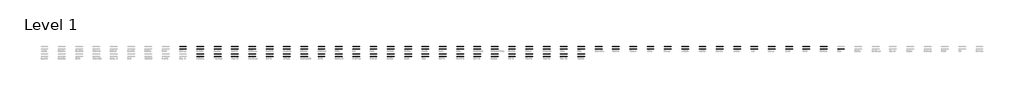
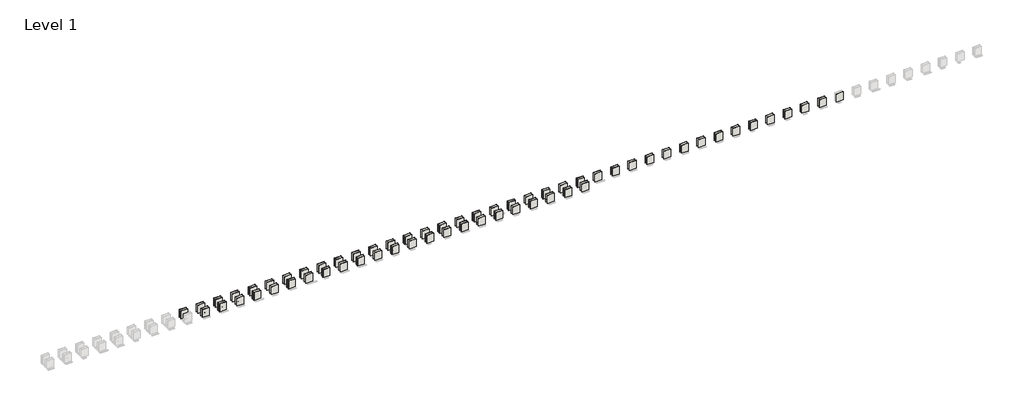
# One storey, part 3 of 99: 123 walls.
"""IFC4 building model written with IfcOpenShell, lengths in millimetres."""

import ifcopenshell
import ifcopenshell.guid

model = None  # the IFC model being written
_history = None  # IfcOwnerHistory: only IFC2X3 demands one
_inside = {}  # id of a spatial element -> (the spatial element, [elements in it])
_under = {}  # id of a project, library or spatial element -> (it, [spatial elements below it])
_declared = {}  # id of a project -> (the project, [libraries it declares])
_typed = {}  # id of a type object -> (the type object, [elements of that type])
_made_of = {}  # id of a material, layer set ... -> (it, [elements and type objects made of it])


def new_model(schema):
    """Start an empty IFC model of exactly this schema.

    Asked for "IFC4X3", IfcOpenShell would pick the latest addendum, in which some entities
    have other attributes; the version numbers below select the first issue.
    IFC2X3 requires an IfcOwnerHistory on every rooted entity: one is made here for all.
    """
    global model, _history
    if schema == "IFC4X3":
        model = ifcopenshell.file(schema_version=(4, 3, 0, 0))
    else:
        model = ifcopenshell.file(schema=schema)
    _inside.clear()
    _under.clear()
    _declared.clear()
    _typed.clear()
    _made_of.clear()
    _history = None
    if model.schema == "IFC2X3":
        org = make("IfcOrganization", Name="unknown")
        user = make(
            "IfcPersonAndOrganization",
            ThePerson=make("IfcPerson", FamilyName="unknown"),
            TheOrganization=org,
        )
        app = make(
            "IfcApplication",
            ApplicationDeveloper=org,
            Version="unknown",
            ApplicationFullName="unknown",
            ApplicationIdentifier="unknown",
        )
        _history = make(
            "IfcOwnerHistory",
            OwningUser=user,
            OwningApplication=app,
            ChangeAction="ADDED",
            CreationDate=0,
        )
    return model


def make(cls, **values):
    """One entity of the class cls with the attributes given. An attribute that is None is left unset."""
    return model.create_entity(
        cls, **{name: value for name, value in values.items() if value is not None}
    )


def rooted(cls, **values):
    """An entity with a GlobalId (a new one), such as an element, a storey or a relation."""
    return make(cls, GlobalId=ifcopenshell.guid.new(), OwnerHistory=_history, **values)


def si_unit(unit_type, name, prefix=None):
    """IfcSIUnit, for example si_unit("LENGTHUNIT", "METRE", prefix="MILLI")."""
    return make("IfcSIUnit", UnitType=unit_type, Prefix=prefix, Name=name)


def assignment(units):
    """IfcUnitAssignment: the units of a project."""
    return None if units is None else make("IfcUnitAssignment", Units=units)


def point(xyz):
    """IfcCartesianPoint."""
    return None if xyz is None else make("IfcCartesianPoint", Coordinates=xyz)


def direction(xyz):
    """IfcDirection."""
    return None if xyz is None else make("IfcDirection", DirectionRatios=xyz)


def frame(location, z_axis=None, x_axis=None):
    """IfcAxis2Placement3D, a coordinate frame: its origin and axes. An axis left out is left unset."""
    return make(
        "IfcAxis2Placement3D",
        Location=point(location),
        Axis=direction(z_axis),
        RefDirection=direction(x_axis),
    )


def origin():
    """The frame at (0, 0, 0) with its axes left unset."""
    return frame((0.0, 0.0, 0.0))


def origin_with_axes():
    """The frame at (0, 0, 0) with the z axis (0, 0, 1) and the x axis (1, 0, 0) written out."""
    return frame((0.0, 0.0, 0.0), z_axis=(0.0, 0.0, 1.0), x_axis=(1.0, 0.0, 0.0))


def place(relative_to, where):
    """IfcLocalPlacement: puts the frame where relative to a parent placement (None: the world)."""
    return make(
        "IfcLocalPlacement", PlacementRelTo=relative_to, RelativePlacement=where
    )


def context(
    kind, dimensions, precision=None, world=None, true_north=None, identifier=None
):
    """IfcGeometricRepresentationContext, for example the 3D "Model" context."""
    return make(
        "IfcGeometricRepresentationContext",
        ContextIdentifier=identifier,
        ContextType=kind,
        CoordinateSpaceDimension=dimensions,
        Precision=precision,
        WorldCoordinateSystem=world,
        TrueNorth=true_north,
    )


def project(units=None, contexts=None):
    """IfcProject with its units and contexts."""
    return rooted(
        "IfcProject",
        Name="project",
        RepresentationContexts=contexts,
        UnitsInContext=assignment(units),
    )


def spatial(cls, under=None, at=None, **own):
    """A site, building, storey or space (cls), placed at a placement, below another one or the project."""
    s = rooted(cls, ObjectPlacement=at, **own)
    if under is not None:
        _under.setdefault(under.id(), (under, []))[1].append(s)
    return s


def polyline(points):
    """IfcPolyline through the points."""
    return make("IfcPolyline", Points=[point(p) for p in points])


def outline(outer, holes=None, kind="AREA"):
    """IfcArbitraryClosedProfileDef: a profile drawn as a closed curve; with holes, ...WithVoids."""
    if holes is None:
        return make("IfcArbitraryClosedProfileDef", ProfileType=kind, OuterCurve=outer)
    return make(
        "IfcArbitraryProfileDefWithVoids",
        ProfileType=kind,
        OuterCurve=outer,
        InnerCurves=holes,
    )


def extrude(swept, where, along, depth):
    """IfcExtrudedAreaSolid: the profile swept, set in the frame where, extruded along a direction by depth."""
    return make(
        "IfcExtrudedAreaSolid",
        SweptArea=swept,
        Position=where,
        ExtrudedDirection=direction(along),
        Depth=depth,
    )


def shape(context_of_items, identifier, shape_type, items):
    """IfcShapeRepresentation: the items that make up one representation, for example the "Body"."""
    return make(
        "IfcShapeRepresentation",
        ContextOfItems=context_of_items,
        RepresentationIdentifier=identifier,
        RepresentationType=shape_type,
        Items=items,
    )


def made_of(thing, what):
    """Note that an element or type object is made of a material, layer set ...; save() writes the relation."""
    if what is not None:
        _made_of.setdefault(what.id(), (what, []))[1].append(thing)
    return thing


def element(
    cls,
    number,
    at=None,
    inside=None,
    cuts=None,
    type_object=None,
    material=None,
    context=None,
    identifier="Body",
    shape_type=None,
    held_by="IfcProductDefinitionShape",
    body=None,
    shapes=None,
    **own,
):
    """One element of the class cls, such as IfcWall. Its Tag is "e" and its number.

    at: its placement. inside: the storey or other place that contains it. cuts: it is an
    opening in that element (IfcRelVoidsElement). A single representation is given by context,
    identifier, shape_type and body (its items); several are given by shapes. held_by: the class
    of the entity that holds the representations. save() writes the other relations.
    """
    e = rooted(cls, Tag="e%d" % number, ObjectPlacement=at, **own)
    if body is not None:
        shapes = [shape(context, identifier, shape_type, body)]
    if shapes is not None:
        e.Representation = make(held_by, Representations=shapes)
    if inside is not None:
        _inside.setdefault(inside.id(), (inside, []))[1].append(e)
    if cuts is not None:
        rooted(
            "IfcRelVoidsElement", RelatingBuildingElement=cuts, RelatedOpeningElement=e
        )
    if type_object is not None:
        _typed.setdefault(type_object.id(), (type_object, []))[1].append(e)
    return made_of(e, material)


def aggregate(whole, parts):
    """IfcRelAggregates: a whole, such as a stair, and the parts it consists of."""
    return rooted("IfcRelAggregates", RelatingObject=whole, RelatedObjects=parts)


def save(model, path):
    """Write the relations noted so far, then the file.

    IfcRelAggregates (storeys below a building ...), IfcRelContainedInSpatialStructure (elements
    in a storey), IfcRelDefinesByType, IfcRelAssociatesMaterial and IfcRelDeclares: one each for
    every whole, place, type object, material and project.
    """
    for whole, parts in _under.values():
        aggregate(whole, parts)
    for where, things in _inside.values():
        rooted(
            "IfcRelContainedInSpatialStructure",
            RelatedElements=things,
            RelatingStructure=where,
        )
    for kind, things in _typed.values():
        rooted("IfcRelDefinesByType", RelatedObjects=things, RelatingType=kind)
    for what, things in _made_of.values():
        rooted("IfcRelAssociatesMaterial", RelatedObjects=things, RelatingMaterial=what)
    for by, libraries in _declared.values():
        rooted("IfcRelDeclares", RelatingContext=by, RelatedDefinitions=libraries)
    model.write(path)


model = new_model("IFC4")

# Units and contexts
model_context = context("Model", 3, world=origin())
ifc_project = project(units=[si_unit("LENGTHUNIT", "METRE", prefix="MILLI")], contexts=[model_context])

# Site, building, storey
site = spatial("IfcSite", under=ifc_project)
building = spatial("IfcBuilding", under=site)
storey = spatial("IfcBuildingStorey", under=building, Name="Level 1", Elevation=0.0)

# Walls
placement = place(None, origin())
element("IfcWall", 1, ObjectType="RSen_22_WA_partition wall - metal stud - Clicwall FR BST Oak Rustique 2785x600x10 mm_Unilin", at=placement, inside=storey, context=model_context, shape_type="SweptSolid", body=[
    extrude(outline(polyline([(215188.8, 1179.2), (211836.0, 1179.2), (211836.0, 1259.2), (215188.8, 1259.2), (215188.8, 1179.2)])), origin_with_axes(), (0.0, 0.0, 1.0), 4000.0),
])
element("IfcWall", 2, ObjectType="RSen_22_WA_partition wall - metal stud - chipboard - Clicwall FR BST Oak Rustique 2785x600x10 mm_Unilin", at=placement, inside=storey, context=model_context, shape_type="SweptSolid", body=[
    extrude(outline(polyline([(215188.8, 2392.4), (211836.0, 2392.4), (211836.0, 2484.4), (215188.8, 2484.4), (215188.8, 2392.4)])), origin_with_axes(), (0.0, 0.0, 1.0), 4000.0),
])
element("IfcWall", 3, ObjectType="RSen_22_WA_partition wall - metal stud - Clicwall FR BST Odessa Beech 2785x600x10 mm_Unilin", at=placement, inside=storey, context=model_context, shape_type="SweptSolid", body=[
    extrude(outline(polyline([(223570.8, 1179.2), (220218.0, 1179.2), (220218.0, 1259.2), (223570.8, 1259.2), (223570.8, 1179.2)])), origin_with_axes(), (0.0, 0.0, 1.0), 4000.0),
])
element("IfcWall", 4, ObjectType="RSen_22_WA_partition wall - metal stud - chipboard - Clicwall FR BST Odessa Beech 2785x600x10 mm_Unilin", at=placement, inside=storey, context=model_context, shape_type="SweptSolid", body=[
    extrude(outline(polyline([(223570.8, 2392.4), (220218.0, 2392.4), (220218.0, 2484.4), (223570.8, 2484.4), (223570.8, 2392.4)])), origin_with_axes(), (0.0, 0.0, 1.0), 4000.0),
])
element("IfcWall", 5, ObjectType="RSen_22_WA_partition wall - metal stud - Clicwall FR BST Paruma Oak 2785x600x10 mm_Unilin", at=placement, inside=storey, context=model_context, shape_type="SweptSolid", body=[
    extrude(outline(polyline([(231952.8, 1179.2), (228600.0, 1179.2), (228600.0, 1259.2), (231952.8, 1259.2), (231952.8, 1179.2)])), origin_with_axes(), (0.0, 0.0, 1.0), 4000.0),
])
element("IfcWall", 6, ObjectType="RSen_22_WA_partition wall - metal stud - chipboard - Clicwall FR BST Paruma Oak 2785x600x10 mm_Unilin", at=placement, inside=storey, context=model_context, shape_type="SweptSolid", body=[
    extrude(outline(polyline([(231952.8, 2392.4), (228600.0, 2392.4), (228600.0, 2484.4), (231952.8, 2484.4), (231952.8, 2392.4)])), origin_with_axes(), (0.0, 0.0, 1.0), 4000.0),
])
element("IfcWall", 7, ObjectType="RSen_22_WA_partition wall - metal stud - Clicwall FR BST Peacock's green 2785x600x10 mm_Unilin", at=placement, inside=storey, context=model_context, shape_type="SweptSolid", body=[
    extrude(outline(polyline([(240334.8, 1179.2), (236982.0, 1179.2), (236982.0, 1259.2), (240334.8, 1259.2), (240334.8, 1179.2)])), origin_with_axes(), (0.0, 0.0, 1.0), 4000.0),
])
element("IfcWall", 8, ObjectType="RSen_22_WA_partition wall - metal stud - chipboard - Clicwall FR BST Peacock's green 2785x600x10 mm_Unilin", at=placement, inside=storey, context=model_context, shape_type="SweptSolid", body=[
    extrude(outline(polyline([(240334.8, 2392.4), (236982.0, 2392.4), (236982.0, 2484.4), (240334.8, 2484.4), (240334.8, 2392.4)])), origin_with_axes(), (0.0, 0.0, 1.0), 4000.0),
])
element("IfcWall", 9, ObjectType="RSen_22_WA_partition wall - metal stud - Clicwall FR BST Pearl Oak 2785x600x10 mm_Unilin", at=placement, inside=storey, context=model_context, shape_type="SweptSolid", body=[
    extrude(outline(polyline([(248716.8, 1179.2), (245364.0, 1179.2), (245364.0, 1259.2), (248716.8, 1259.2), (248716.8, 1179.2)])), origin_with_axes(), (0.0, 0.0, 1.0), 4000.0),
])
element("IfcWall", 10, ObjectType="RSen_22_WA_partition wall - metal stud - chipboard - Clicwall FR BST Pearl Oak 2785x600x10 mm_Unilin", at=placement, inside=storey, context=model_context, shape_type="SweptSolid", body=[
    extrude(outline(polyline([(248716.8, 2392.4), (245364.0, 2392.4), (245364.0, 2484.4), (248716.8, 2484.4), (248716.8, 2392.4)])), origin_with_axes(), (0.0, 0.0, 1.0), 4000.0),
])
element("IfcWall", 11, ObjectType="RSen_22_WA_partition wall - metal stud - Clicwall FR BST Pebble white 2785x600x10 mm_Unilin", at=placement, inside=storey, context=model_context, shape_type="SweptSolid", body=[
    extrude(outline(polyline([(257098.8, 1179.2), (253746.0, 1179.2), (253746.0, 1259.2), (257098.8, 1259.2), (257098.8, 1179.2)])), origin_with_axes(), (0.0, 0.0, 1.0), 4000.0),
])
element("IfcWall", 12, ObjectType="RSen_22_WA_partition wall - metal stud - chipboard - Clicwall FR BST Pebble white 2785x600x10 mm_Unilin", at=placement, inside=storey, context=model_context, shape_type="SweptSolid", body=[
    extrude(outline(polyline([(257098.8, 2392.4), (253746.0, 2392.4), (253746.0, 2484.4), (257098.8, 2484.4), (257098.8, 2392.4)])), origin_with_axes(), (0.0, 0.0, 1.0), 4000.0),
])
element("IfcWall", 13, ObjectType="RSen_22_WA_partition wall - metal stud - Clicwall FR BST Pure Concrete light 2785x600x10 mm_Unilin", at=placement, inside=storey, context=model_context, shape_type="SweptSolid", body=[
    extrude(outline(polyline([(265480.8, 1179.2), (262128.0, 1179.2), (262128.0, 1259.2), (265480.8, 1259.2), (265480.8, 1179.2)])), origin_with_axes(), (0.0, 0.0, 1.0), 4000.0),
])
element("IfcWall", 14, ObjectType="RSen_22_WA_partition wall - metal stud - chipboard - Clicwall FR BST Pure Concrete light 2785x600x10 mm_Unilin", at=placement, inside=storey, context=model_context, shape_type="SweptSolid", body=[
    extrude(outline(polyline([(265480.8, 2392.4), (262128.0, 2392.4), (262128.0, 2484.4), (265480.8, 2484.4), (265480.8, 2392.4)])), origin_with_axes(), (0.0, 0.0, 1.0), 4000.0),
])
element("IfcWall", 15, ObjectType="RSen_22_WA_partition wall - metal stud - Clicwall FR BST Rila Oak 2785x600x10 mm_Unilin", at=placement, inside=storey, context=model_context, shape_type="SweptSolid", body=[
    extrude(outline(polyline([(273862.8, 1179.2), (270510.0, 1179.2), (270510.0, 1259.2), (273862.8, 1259.2), (273862.8, 1179.2)])), origin_with_axes(), (0.0, 0.0, 1.0), 4000.0),
])
element("IfcWall", 16, ObjectType="RSen_22_WA_partition wall - metal stud - chipboard - Clicwall FR BST Rila Oak 2785x600x10 mm_Unilin", at=placement, inside=storey, context=model_context, shape_type="SweptSolid", body=[
    extrude(outline(polyline([(273862.8, 2392.4), (270510.0, 2392.4), (270510.0, 2484.4), (273862.8, 2484.4), (273862.8, 2392.4)])), origin_with_axes(), (0.0, 0.0, 1.0), 4000.0),
])
element("IfcWall", 17, ObjectType="RSen_22_WA_partition wall - metal stud - Clicwall FR BST Riverside  Oak 2785x600x10 mm_Unilin", at=placement, inside=storey, context=model_context, shape_type="SweptSolid", body=[
    extrude(outline(polyline([(282244.8, 1179.2), (278892.0, 1179.2), (278892.0, 1259.2), (282244.8, 1259.2), (282244.8, 1179.2)])), origin_with_axes(), (0.0, 0.0, 1.0), 4000.0),
])
element("IfcWall", 18, ObjectType="RSen_22_WA_partition wall - metal stud - chipboard - Clicwall FR BST Riverside  Oak 2785x600x10 mm_Unilin", at=placement, inside=storey, context=model_context, shape_type="SweptSolid", body=[
    extrude(outline(polyline([(282244.8, 2392.4), (278892.0, 2392.4), (278892.0, 2484.4), (282244.8, 2484.4), (282244.8, 2392.4)])), origin_with_axes(), (0.0, 0.0, 1.0), 4000.0),
])
element("IfcWall", 19, ObjectType="RSen_22_WA_partition wall - metal stud - Clicwall FR BST Roasted brown 2785x600x10 mm_Unilin", at=placement, inside=storey, context=model_context, shape_type="SweptSolid", body=[
    extrude(outline(polyline([(290626.8, 1179.2), (287274.0, 1179.2), (287274.0, 1259.2), (290626.8, 1259.2), (290626.8, 1179.2)])), origin_with_axes(), (0.0, 0.0, 1.0), 4000.0),
])
element("IfcWall", 20, ObjectType="RSen_22_WA_partition wall - metal stud - chipboard - Clicwall FR BST Roasted brown 2785x600x10 mm_Unilin", at=placement, inside=storey, context=model_context, shape_type="SweptSolid", body=[
    extrude(outline(polyline([(290626.8, 2392.4), (287274.0, 2392.4), (287274.0, 2484.4), (290626.8, 2484.4), (290626.8, 2392.4)])), origin_with_axes(), (0.0, 0.0, 1.0), 4000.0),
])
element("IfcWall", 21, ObjectType="RSen_22_WA_partition wall - metal stud - Clicwall FR BST Robson Oak 2785x600x10 mm_Unilin", at=placement, inside=storey, context=model_context, shape_type="SweptSolid", body=[
    extrude(outline(polyline([(299008.8, 1179.2), (295656.0, 1179.2), (295656.0, 1259.2), (299008.8, 1259.2), (299008.8, 1179.2)])), origin_with_axes(), (0.0, 0.0, 1.0), 4000.0),
])
element("IfcWall", 22, ObjectType="RSen_22_WA_partition wall - metal stud - chipboard - Clicwall FR BST Robson Oak 2785x600x10 mm_Unilin", at=placement, inside=storey, context=model_context, shape_type="SweptSolid", body=[
    extrude(outline(polyline([(299008.8, 2392.4), (295656.0, 2392.4), (295656.0, 2484.4), (299008.8, 2484.4), (299008.8, 2392.4)])), origin_with_axes(), (0.0, 0.0, 1.0), 4000.0),
])
element("IfcWall", 23, ObjectType="RSen_22_WA_partition wall - metal stud - Clicwall FR BST Sandy lilac 2785x600x10 mm_Unilin", at=placement, inside=storey, context=model_context, shape_type="SweptSolid", body=[
    extrude(outline(polyline([(307390.8, 1179.2), (304038.0, 1179.2), (304038.0, 1259.2), (307390.8, 1259.2), (307390.8, 1179.2)])), origin_with_axes(), (0.0, 0.0, 1.0), 4000.0),
])
element("IfcWall", 24, ObjectType="RSen_22_WA_partition wall - metal stud - chipboard - Clicwall FR BST Sandy lilac 2785x600x10 mm_Unilin", at=placement, inside=storey, context=model_context, shape_type="SweptSolid", body=[
    extrude(outline(polyline([(307390.8, 2392.4), (304038.0, 2392.4), (304038.0, 2484.4), (307390.8, 2484.4), (307390.8, 2392.4)])), origin_with_axes(), (0.0, 0.0, 1.0), 4000.0),
])
element("IfcWall", 25, ObjectType="RSen_22_WA_partition wall - metal stud - Clicwall FR BST Seashell 2785x600x10 mm_Unilin", at=placement, inside=storey, context=model_context, shape_type="SweptSolid", body=[
    extrude(outline(polyline([(315772.8, 1179.2), (312420.0, 1179.2), (312420.0, 1259.2), (315772.8, 1259.2), (315772.8, 1179.2)])), origin_with_axes(), (0.0, 0.0, 1.0), 4000.0),
])
element("IfcWall", 26, ObjectType="RSen_22_WA_partition wall - metal stud - chipboard - Clicwall FR BST Seashell 2785x600x10 mm_Unilin", at=placement, inside=storey, context=model_context, shape_type="SweptSolid", body=[
    extrude(outline(polyline([(315772.8, 2392.4), (312420.0, 2392.4), (312420.0, 2484.4), (315772.8, 2484.4), (315772.8, 2392.4)])), origin_with_axes(), (0.0, 0.0, 1.0), 4000.0),
])
element("IfcWall", 27, ObjectType="RSen_22_WA_partition wall - metal stud - Clicwall FR BST Silicon  2785x600x10 mm_Unilin", at=placement, inside=storey, context=model_context, shape_type="SweptSolid", body=[
    extrude(outline(polyline([(324154.8, 1179.2), (320802.0, 1179.2), (320802.0, 1259.2), (324154.8, 1259.2), (324154.8, 1179.2)])), origin_with_axes(), (0.0, 0.0, 1.0), 4000.0),
])
element("IfcWall", 28, ObjectType="RSen_22_WA_partition wall - metal stud - chipboard - Clicwall FR BST Silicon  2785x600x10 mm_Unilin", at=placement, inside=storey, context=model_context, shape_type="SweptSolid", body=[
    extrude(outline(polyline([(324154.8, 2392.4), (320802.0, 2392.4), (320802.0, 2484.4), (324154.8, 2484.4), (324154.8, 2392.4)])), origin_with_axes(), (0.0, 0.0, 1.0), 4000.0),
])
element("IfcWall", 29, ObjectType="RSen_22_WA_partition wall - metal stud - Clicwall FR BST Sinai Oak  2785x600x10 mm_Unilin", at=placement, inside=storey, context=model_context, shape_type="SweptSolid", body=[
    extrude(outline(polyline([(332536.8, 1179.2), (329184.0, 1179.2), (329184.0, 1259.2), (332536.8, 1259.2), (332536.8, 1179.2)])), origin_with_axes(), (0.0, 0.0, 1.0), 4000.0),
])
element("IfcWall", 30, ObjectType="RSen_22_WA_partition wall - metal stud - chipboard - Clicwall FR BST Sinai Oak  2785x600x10 mm_Unilin", at=placement, inside=storey, context=model_context, shape_type="SweptSolid", body=[
    extrude(outline(polyline([(332536.8, 2392.4), (329184.0, 2392.4), (329184.0, 2484.4), (332536.8, 2484.4), (332536.8, 2392.4)])), origin_with_axes(), (0.0, 0.0, 1.0), 4000.0),
])
element("IfcWall", 31, ObjectType="RSen_22_WA_partition wall - metal stud - Clicwall FR BST Snowdon Oak 2785x600x10 mm_Unilin", at=placement, inside=storey, context=model_context, shape_type="SweptSolid", body=[
    extrude(outline(polyline([(340918.8, 1179.2), (337566.0, 1179.2), (337566.0, 1259.2), (340918.8, 1259.2), (340918.8, 1179.2)])), origin_with_axes(), (0.0, 0.0, 1.0), 4000.0),
])
element("IfcWall", 32, ObjectType="RSen_22_WA_partition wall - metal stud - chipboard - Clicwall FR BST Snowdon Oak 2785x600x10 mm_Unilin", at=placement, inside=storey, context=model_context, shape_type="SweptSolid", body=[
    extrude(outline(polyline([(340918.8, 2392.4), (337566.0, 2392.4), (337566.0, 2484.4), (340918.8, 2484.4), (340918.8, 2392.4)])), origin_with_axes(), (0.0, 0.0, 1.0), 4000.0),
])
element("IfcWall", 33, ObjectType="RSen_22_WA_partition wall - metal stud - Clicwall FR BST Solara Oak 2785x600x10 mm_Unilin", at=placement, inside=storey, context=model_context, shape_type="SweptSolid", body=[
    extrude(outline(polyline([(349300.8, 1179.2), (345948.0, 1179.2), (345948.0, 1259.2), (349300.8, 1259.2), (349300.8, 1179.2)])), origin_with_axes(), (0.0, 0.0, 1.0), 4000.0),
])
element("IfcWall", 34, ObjectType="RSen_22_WA_partition wall - metal stud - chipboard - Clicwall FR BST Solara Oak 2785x600x10 mm_Unilin", at=placement, inside=storey, context=model_context, shape_type="SweptSolid", body=[
    extrude(outline(polyline([(349300.8, 2392.4), (345948.0, 2392.4), (345948.0, 2484.4), (349300.8, 2484.4), (349300.8, 2392.4)])), origin_with_axes(), (0.0, 0.0, 1.0), 4000.0),
])
element("IfcWall", 35, ObjectType="RSen_22_WA_partition wall - metal stud - Clicwall FR BST Suomi Ash 2785x600x10 mm_Unilin", at=placement, inside=storey, context=model_context, shape_type="SweptSolid", body=[
    extrude(outline(polyline([(357682.8, 1179.2), (354330.0, 1179.2), (354330.0, 1259.2), (357682.8, 1259.2), (357682.8, 1179.2)])), origin_with_axes(), (0.0, 0.0, 1.0), 4000.0),
])
element("IfcWall", 36, ObjectType="RSen_22_WA_partition wall - metal stud - chipboard - Clicwall FR BST Suomi Ash 2785x600x10 mm_Unilin", at=placement, inside=storey, context=model_context, shape_type="SweptSolid", body=[
    extrude(outline(polyline([(357682.8, 2392.4), (354330.0, 2392.4), (354330.0, 2484.4), (357682.8, 2484.4), (357682.8, 2392.4)])), origin_with_axes(), (0.0, 0.0, 1.0), 4000.0),
])
element("IfcWall", 37, ObjectType="RSen_22_WA_partition wall - metal stud - Clicwall FR BST Todi Oak  2785x600x10 mm_Unilin", at=placement, inside=storey, context=model_context, shape_type="SweptSolid", body=[
    extrude(outline(polyline([(366064.8, 1179.2), (362712.0, 1179.2), (362712.0, 1259.2), (366064.8, 1259.2), (366064.8, 1179.2)])), origin_with_axes(), (0.0, 0.0, 1.0), 4000.0),
])
element("IfcWall", 38, ObjectType="RSen_22_WA_partition wall - metal stud - chipboard - Clicwall FR BST Todi Oak  2785x600x10 mm_Unilin", at=placement, inside=storey, context=model_context, shape_type="SweptSolid", body=[
    extrude(outline(polyline([(366064.8, 2392.4), (362712.0, 2392.4), (362712.0, 2484.4), (366064.8, 2484.4), (366064.8, 2392.4)])), origin_with_axes(), (0.0, 0.0, 1.0), 4000.0),
])
element("IfcWall", 39, ObjectType="RSen_22_WA_partition wall - metal stud - Clicwall FR BST Torino Oak 2785x600x10 mm_Unilin", at=placement, inside=storey, context=model_context, shape_type="SweptSolid", body=[
    extrude(outline(polyline([(374446.8, 1179.2), (371094.0, 1179.2), (371094.0, 1259.2), (374446.8, 1259.2), (374446.8, 1179.2)])), origin_with_axes(), (0.0, 0.0, 1.0), 4000.0),
])
element("IfcWall", 40, ObjectType="RSen_22_WA_partition wall - metal stud - chipboard - Clicwall FR BST Torino Oak 2785x600x10 mm_Unilin", at=placement, inside=storey, context=model_context, shape_type="SweptSolid", body=[
    extrude(outline(polyline([(374446.8, 2392.4), (371094.0, 2392.4), (371094.0, 2484.4), (374446.8, 2484.4), (374446.8, 2392.4)])), origin_with_axes(), (0.0, 0.0, 1.0), 4000.0),
])
element("IfcWall", 41, ObjectType="RSen_22_WA_partition wall - metal stud - Clicwall FR BST Venamo Oak  2785x600x10 mm_Unilin", at=placement, inside=storey, context=model_context, shape_type="SweptSolid", body=[
    extrude(outline(polyline([(382828.8, 1179.2), (379476.0, 1179.2), (379476.0, 1259.2), (382828.8, 1259.2), (382828.8, 1179.2)])), origin_with_axes(), (0.0, 0.0, 1.0), 4000.0),
])
element("IfcWall", 42, ObjectType="RSen_22_WA_partition wall - metal stud - chipboard - Clicwall FR BST Venamo Oak  2785x600x10 mm_Unilin", at=placement, inside=storey, context=model_context, shape_type="SweptSolid", body=[
    extrude(outline(polyline([(382828.8, 2392.4), (379476.0, 2392.4), (379476.0, 2484.4), (382828.8, 2484.4), (382828.8, 2392.4)])), origin_with_axes(), (0.0, 0.0, 1.0), 4000.0),
])
element("IfcWall", 43, ObjectType="RSen_22_WA_partition wall - metal stud - Clicwall FR BST Verona Oak 2785x600x10 mm_Unilin", at=placement, inside=storey, context=model_context, shape_type="SweptSolid", body=[
    extrude(outline(polyline([(391210.8, 1179.2), (387858.0, 1179.2), (387858.0, 1259.2), (391210.8, 1259.2), (391210.8, 1179.2)])), origin_with_axes(), (0.0, 0.0, 1.0), 4000.0),
])
element("IfcWall", 44, ObjectType="RSen_22_WA_partition wall - metal stud - chipboard - Clicwall FR BST Verona Oak 2785x600x10 mm_Unilin", at=placement, inside=storey, context=model_context, shape_type="SweptSolid", body=[
    extrude(outline(polyline([(391210.8, 2392.4), (387858.0, 2392.4), (387858.0, 2484.4), (391210.8, 2484.4), (391210.8, 2392.4)])), origin_with_axes(), (0.0, 0.0, 1.0), 4000.0),
])
element("IfcWall", 45, ObjectType="RSen_22_WA_partition wall - metal stud - Clicwall FR BST White Birch 2785x600x10 mm_Unilin", at=placement, inside=storey, context=model_context, shape_type="SweptSolid", body=[
    extrude(outline(polyline([(399592.8, 1179.2), (396240.0, 1179.2), (396240.0, 1259.2), (399592.8, 1259.2), (399592.8, 1179.2)])), origin_with_axes(), (0.0, 0.0, 1.0), 4000.0),
])
element("IfcWall", 46, ObjectType="RSen_22_WA_partition wall - metal stud - chipboard - Clicwall FR BST White Birch 2785x600x10 mm_Unilin", at=placement, inside=storey, context=model_context, shape_type="SweptSolid", body=[
    extrude(outline(polyline([(399592.8, 2392.4), (396240.0, 2392.4), (396240.0, 2484.4), (399592.8, 2484.4), (399592.8, 2392.4)])), origin_with_axes(), (0.0, 0.0, 1.0), 4000.0),
])
element("IfcWall", 47, ObjectType="RSen_22_WA_partition wall - metal stud - Clicwall FR CST Fresh green 2785x600x10 mm_Unilin", at=placement, inside=storey, context=model_context, shape_type="SweptSolid", body=[
    extrude(outline(polyline([(206806.8, 4836.8), (203454.0, 4836.8), (203454.0, 4916.8), (206806.8, 4916.8), (206806.8, 4836.8)])), origin_with_axes(), (0.0, 0.0, 1.0), 4000.0),
])
element("IfcWall", 48, ObjectType="RSen_22_WA_partition wall - metal stud - chipboard - Clicwall FR CST Fresh green 2785x600x10 mm_Unilin", at=placement, inside=storey, context=model_context, shape_type="SweptSolid", body=[
    extrude(outline(polyline([(206806.8, 6050.0), (203454.0, 6050.0), (203454.0, 6142.0), (206806.8, 6142.0), (206806.8, 6050.0)])), origin_with_axes(), (0.0, 0.0, 1.0), 4000.0),
])
element("IfcWall", 49, ObjectType="RSen_22_WA_partition wall - metal stud - Clicwall FR CST Front white 2785x600x10 mm_unilin", at=placement, inside=storey, context=model_context, shape_type="SweptSolid", body=[
    extrude(outline(polyline([(215188.8, 4836.8), (211836.0, 4836.8), (211836.0, 4916.8), (215188.8, 4916.8), (215188.8, 4836.8)])), origin_with_axes(), (0.0, 0.0, 1.0), 4000.0),
])
element("IfcWall", 50, ObjectType="RSen_22_WA_partition wall - metal stud - chipboard - Clicwall FR CST Front white 2785x600x10 mm_unilin", at=placement, inside=storey, context=model_context, shape_type="SweptSolid", body=[
    extrude(outline(polyline([(215188.8, 6050.0), (211836.0, 6050.0), (211836.0, 6142.0), (215188.8, 6142.0), (215188.8, 6050.0)])), origin_with_axes(), (0.0, 0.0, 1.0), 4000.0),
])
element("IfcWall", 51, ObjectType="RSen_22_WA_partition wall - metal stud - Clicwall FR CST Frozen blue 2785x600x10 mm_Unilin", at=placement, inside=storey, context=model_context, shape_type="SweptSolid", body=[
    extrude(outline(polyline([(223570.8, 4836.8), (220218.0, 4836.8), (220218.0, 4916.8), (223570.8, 4916.8), (223570.8, 4836.8)])), origin_with_axes(), (0.0, 0.0, 1.0), 4000.0),
])
element("IfcWall", 52, ObjectType="RSen_22_WA_partition wall - metal stud - chipboard - Clicwall FR CST Frozen blue 2785x600x10 mm_Unilin", at=placement, inside=storey, context=model_context, shape_type="SweptSolid", body=[
    extrude(outline(polyline([(223570.8, 6050.0), (220218.0, 6050.0), (220218.0, 6142.0), (223570.8, 6142.0), (223570.8, 6050.0)])), origin_with_axes(), (0.0, 0.0, 1.0), 4000.0),
])
element("IfcWall", 53, ObjectType="RSen_22_WA_partition wall - metal stud - Clicwall FR CST Fumed Oak 2785x600x10 mm_Unilin", at=placement, inside=storey, context=model_context, shape_type="SweptSolid", body=[
    extrude(outline(polyline([(231952.8, 4836.8), (228600.0, 4836.8), (228600.0, 4916.8), (231952.8, 4916.8), (231952.8, 4836.8)])), origin_with_axes(), (0.0, 0.0, 1.0), 4000.0),
])
element("IfcWall", 54, ObjectType="RSen_22_WA_partition wall - metal stud - chipboard - Clicwall FR CST Fumed Oak 2785x600x10 mm_Unilin", at=placement, inside=storey, context=model_context, shape_type="SweptSolid", body=[
    extrude(outline(polyline([(231952.8, 6050.0), (228600.0, 6050.0), (228600.0, 6142.0), (231952.8, 6142.0), (231952.8, 6050.0)])), origin_with_axes(), (0.0, 0.0, 1.0), 4000.0),
])
element("IfcWall", 55, ObjectType="RSen_22_WA_partition wall - metal stud - Clicwall FR CST Goldfish orange 2785x600x10 mm_Unilin", at=placement, inside=storey, context=model_context, shape_type="SweptSolid", body=[
    extrude(outline(polyline([(240334.8, 4836.8), (236982.0, 4836.8), (236982.0, 4916.8), (240334.8, 4916.8), (240334.8, 4836.8)])), origin_with_axes(), (0.0, 0.0, 1.0), 4000.0),
])
element("IfcWall", 56, ObjectType="RSen_22_WA_partition wall - metal stud - chipboard - Clicwall FR CST Goldfish orange 2785x600x10 mm_Unilin", at=placement, inside=storey, context=model_context, shape_type="SweptSolid", body=[
    extrude(outline(polyline([(240334.8, 6050.0), (236982.0, 6050.0), (236982.0, 6142.0), (240334.8, 6142.0), (240334.8, 6050.0)])), origin_with_axes(), (0.0, 0.0, 1.0), 4000.0),
])
element("IfcWall", 57, ObjectType="RSen_22_WA_partition wall - metal stud - Clicwall FR CST Granada Oak 2785x600x10 mm_Unilin", at=placement, inside=storey, context=model_context, shape_type="SweptSolid", body=[
    extrude(outline(polyline([(248716.8, 4836.8), (245364.0, 4836.8), (245364.0, 4916.8), (248716.8, 4916.8), (248716.8, 4836.8)])), origin_with_axes(), (0.0, 0.0, 1.0), 4000.0),
])
element("IfcWall", 58, ObjectType="RSen_22_WA_partition wall - metal stud - chipboard - Clicwall FR CST Granada Oak 2785x600x10 mm_Unilin", at=placement, inside=storey, context=model_context, shape_type="SweptSolid", body=[
    extrude(outline(polyline([(248716.8, 6050.0), (245364.0, 6050.0), (245364.0, 6142.0), (248716.8, 6142.0), (248716.8, 6050.0)])), origin_with_axes(), (0.0, 0.0, 1.0), 4000.0),
])
element("IfcWall", 59, ObjectType="RSen_22_WA_partition wall - metal stud - Clicwall FR CST Green shadow 2785x600x10 mm_Unilin", at=placement, inside=storey, context=model_context, shape_type="SweptSolid", body=[
    extrude(outline(polyline([(257098.8, 4836.8), (253746.0, 4836.8), (253746.0, 4916.8), (257098.8, 4916.8), (257098.8, 4836.8)])), origin_with_axes(), (0.0, 0.0, 1.0), 4000.0),
])
element("IfcWall", 60, ObjectType="RSen_22_WA_partition wall - metal stud - chipboard - Clicwall FR CST Green shadow 2785x600x10 mm_Unilin", at=placement, inside=storey, context=model_context, shape_type="SweptSolid", body=[
    extrude(outline(polyline([(257098.8, 6050.0), (253746.0, 6050.0), (253746.0, 6142.0), (257098.8, 6142.0), (257098.8, 6050.0)])), origin_with_axes(), (0.0, 0.0, 1.0), 4000.0),
])
element("IfcWall", 61, ObjectType="RSen_22_WA_partition wall - metal stud - Clicwall FR CST Indian curry 2785x600x10 mm_Unilin", at=placement, inside=storey, context=model_context, shape_type="SweptSolid", body=[
    extrude(outline(polyline([(265480.8, 4836.8), (262128.0, 4836.8), (262128.0, 4916.8), (265480.8, 4916.8), (265480.8, 4836.8)])), origin_with_axes(), (0.0, 0.0, 1.0), 4000.0),
])
element("IfcWall", 62, ObjectType="RSen_22_WA_partition wall - metal stud - chipboard - Clicwall FR CST Indian curry 2785x600x10 mm_Unilin", at=placement, inside=storey, context=model_context, shape_type="SweptSolid", body=[
    extrude(outline(polyline([(265480.8, 6050.0), (262128.0, 6050.0), (262128.0, 6142.0), (265480.8, 6142.0), (265480.8, 6050.0)])), origin_with_axes(), (0.0, 0.0, 1.0), 4000.0),
])
element("IfcWall", 63, ObjectType="RSen_22_WA_partition wall - metal stud - Clicwall FR CST Industrial green 2785x600x10 mm_Unilin", at=placement, inside=storey, context=model_context, shape_type="SweptSolid", body=[
    extrude(outline(polyline([(273862.8, 4836.8), (270510.0, 4836.8), (270510.0, 4916.8), (273862.8, 4916.8), (273862.8, 4836.8)])), origin_with_axes(), (0.0, 0.0, 1.0), 4000.0),
])
element("IfcWall", 64, ObjectType="RSen_22_WA_partition wall - metal stud - chipboard - Clicwall FR CST Industrial green 2785x600x10 mm_Unilin", at=placement, inside=storey, context=model_context, shape_type="SweptSolid", body=[
    extrude(outline(polyline([(273862.8, 6050.0), (270510.0, 6050.0), (270510.0, 6142.0), (273862.8, 6142.0), (273862.8, 6050.0)])), origin_with_axes(), (0.0, 0.0, 1.0), 4000.0),
])
element("IfcWall", 65, ObjectType="RSen_22_WA_partition wall - metal stud - Clicwall FR CST Ink blue 2785x600x10 mm_Unilin", at=placement, inside=storey, context=model_context, shape_type="SweptSolid", body=[
    extrude(outline(polyline([(282244.8, 4836.8), (278892.0, 4836.8), (278892.0, 4916.8), (282244.8, 4916.8), (282244.8, 4836.8)])), origin_with_axes(), (0.0, 0.0, 1.0), 4000.0),
])
element("IfcWall", 66, ObjectType="RSen_22_WA_partition wall - metal stud - chipboard - Clicwall FR CST Ink blue 2785x600x10 mm_Unilin", at=placement, inside=storey, context=model_context, shape_type="SweptSolid", body=[
    extrude(outline(polyline([(282244.8, 6050.0), (278892.0, 6050.0), (278892.0, 6142.0), (282244.8, 6142.0), (282244.8, 6050.0)])), origin_with_axes(), (0.0, 0.0, 1.0), 4000.0),
])
element("IfcWall", 67, ObjectType="RSen_22_WA_partition wall - metal stud - Clicwall FR CST Ivory 2785x600x10 mm_Unilin", at=placement, inside=storey, context=model_context, shape_type="SweptSolid", body=[
    extrude(outline(polyline([(290626.8, 4836.8), (287274.0, 4836.8), (287274.0, 4916.8), (290626.8, 4916.8), (290626.8, 4836.8)])), origin_with_axes(), (0.0, 0.0, 1.0), 4000.0),
])
element("IfcWall", 68, ObjectType="RSen_22_WA_partition wall - metal stud - chipboard - Clicwall FR CST Ivory 2785x600x10 mm_Unilin", at=placement, inside=storey, context=model_context, shape_type="SweptSolid", body=[
    extrude(outline(polyline([(290626.8, 6050.0), (287274.0, 6050.0), (287274.0, 6142.0), (290626.8, 6142.0), (290626.8, 6050.0)])), origin_with_axes(), (0.0, 0.0, 1.0), 4000.0),
])
element("IfcWall", 69, ObjectType="RSen_22_WA_partition wall - metal stud - Clicwall FR CST Jasmina 2785x600x10 mm_Unilin", at=placement, inside=storey, context=model_context, shape_type="SweptSolid", body=[
    extrude(outline(polyline([(299008.8, 4836.8), (295656.0, 4836.8), (295656.0, 4916.8), (299008.8, 4916.8), (299008.8, 4836.8)])), origin_with_axes(), (0.0, 0.0, 1.0), 4000.0),
])
element("IfcWall", 70, ObjectType="RSen_22_WA_partition wall - metal stud - chipboard - Clicwall FR CST Jasmina 2785x600x10 mm_Unilin", at=placement, inside=storey, context=model_context, shape_type="SweptSolid", body=[
    extrude(outline(polyline([(299008.8, 6050.0), (295656.0, 6050.0), (295656.0, 6142.0), (299008.8, 6142.0), (299008.8, 6050.0)])), origin_with_axes(), (0.0, 0.0, 1.0), 4000.0),
])
element("IfcWall", 71, ObjectType="RSen_22_WA_partition wall - metal stud - Clicwall FR CST Jura Beech 2785x600x10 mm_Unilin", at=placement, inside=storey, context=model_context, shape_type="SweptSolid", body=[
    extrude(outline(polyline([(307390.8, 4836.8), (304038.0, 4836.8), (304038.0, 4916.8), (307390.8, 4916.8), (307390.8, 4836.8)])), origin_with_axes(), (0.0, 0.0, 1.0), 4000.0),
])
element("IfcWall", 72, ObjectType="RSen_22_WA_partition wall - metal stud - chipboard - Clicwall FR CST Jura Beech 2785x600x10 mm_Unilin", at=placement, inside=storey, context=model_context, shape_type="SweptSolid", body=[
    extrude(outline(polyline([(307390.8, 6050.0), (304038.0, 6050.0), (304038.0, 6142.0), (307390.8, 6142.0), (307390.8, 6050.0)])), origin_with_axes(), (0.0, 0.0, 1.0), 4000.0),
])
element("IfcWall", 73, ObjectType="RSen_22_WA_partition wall - metal stud - Clicwall FR CST Kivu Wenge 2785x600x10 mm_Unilin", at=placement, inside=storey, context=model_context, shape_type="SweptSolid", body=[
    extrude(outline(polyline([(315772.8, 4836.8), (312420.0, 4836.8), (312420.0, 4916.8), (315772.8, 4916.8), (315772.8, 4836.8)])), origin_with_axes(), (0.0, 0.0, 1.0), 4000.0),
])
element("IfcWall", 74, ObjectType="RSen_22_WA_partition wall - metal stud - chipboard - Clicwall FR CST Kivu Wenge 2785x600x10 mm_Unilin", at=placement, inside=storey, context=model_context, shape_type="SweptSolid", body=[
    extrude(outline(polyline([(315772.8, 6050.0), (312420.0, 6050.0), (312420.0, 6142.0), (315772.8, 6142.0), (315772.8, 6050.0)])), origin_with_axes(), (0.0, 0.0, 1.0), 4000.0),
])
element("IfcWall", 75, ObjectType="RSen_22_WA_partition wall - metal stud - Clicwall FR CST Lace white 2785x600x10 mm_Unilin", at=placement, inside=storey, context=model_context, shape_type="SweptSolid", body=[
    extrude(outline(polyline([(324154.8, 4836.8), (320802.0, 4836.8), (320802.0, 4916.8), (324154.8, 4916.8), (324154.8, 4836.8)])), origin_with_axes(), (0.0, 0.0, 1.0), 4000.0),
])
element("IfcWall", 76, ObjectType="RSen_22_WA_partition wall - metal stud - chipboard - Clicwall FR CST Lace white 2785x600x10 mm_Unilin", at=placement, inside=storey, context=model_context, shape_type="SweptSolid", body=[
    extrude(outline(polyline([(324154.8, 6050.0), (320802.0, 6050.0), (320802.0, 6142.0), (324154.8, 6142.0), (324154.8, 6050.0)])), origin_with_axes(), (0.0, 0.0, 1.0), 4000.0),
])
element("IfcWall", 77, ObjectType="RSen_22_WA_partition wall - metal stud - Clicwall FR CST Lemon  2785x600x10 mm_Unilin", at=placement, inside=storey, context=model_context, shape_type="SweptSolid", body=[
    extrude(outline(polyline([(332536.8, 4836.8), (329184.0, 4836.8), (329184.0, 4916.8), (332536.8, 4916.8), (332536.8, 4836.8)])), origin_with_axes(), (0.0, 0.0, 1.0), 4000.0),
])
element("IfcWall", 78, ObjectType="RSen_22_WA_partition wall - metal stud - chipboard - Clicwall FR CST Lemon  2785x600x10 mm_Unilin", at=placement, inside=storey, context=model_context, shape_type="SweptSolid", body=[
    extrude(outline(polyline([(332536.8, 6050.0), (329184.0, 6050.0), (329184.0, 6142.0), (332536.8, 6142.0), (332536.8, 6050.0)])), origin_with_axes(), (0.0, 0.0, 1.0), 4000.0),
])
element("IfcWall", 79, ObjectType="RSen_22_WA_partition wall - metal stud - Clicwall FR CST Lychee 2785x600x10 mm_Unilin", at=placement, inside=storey, context=model_context, shape_type="SweptSolid", body=[
    extrude(outline(polyline([(340918.8, 4836.8), (337566.0, 4836.8), (337566.0, 4916.8), (340918.8, 4916.8), (340918.8, 4836.8)])), origin_with_axes(), (0.0, 0.0, 1.0), 4000.0),
])
element("IfcWall", 80, ObjectType="RSen_22_WA_partition wall - metal stud - chipboard - Clicwall FR CST Lychee 2785x600x10 mm_Unilin", at=placement, inside=storey, context=model_context, shape_type="SweptSolid", body=[
    extrude(outline(polyline([(340918.8, 6050.0), (337566.0, 6050.0), (337566.0, 6142.0), (340918.8, 6142.0), (340918.8, 6050.0)])), origin_with_axes(), (0.0, 0.0, 1.0), 4000.0),
])
element("IfcWall", 81, ObjectType="RSen_22_WA_partition wall - metal stud - Clicwall FR CST Macchiato brown 2785x600x10 mm_Unilin", at=placement, inside=storey, context=model_context, shape_type="SweptSolid", body=[
    extrude(outline(polyline([(349300.8, 4836.8), (345948.0, 4836.8), (345948.0, 4916.8), (349300.8, 4916.8), (349300.8, 4836.8)])), origin_with_axes(), (0.0, 0.0, 1.0), 4000.0),
])
element("IfcWall", 82, ObjectType="RSen_22_WA_partition wall - metal stud - chipboard - Clicwall FR CST Macchiato brown 2785x600x10 mm_Unilin", at=placement, inside=storey, context=model_context, shape_type="SweptSolid", body=[
    extrude(outline(polyline([(349300.8, 6050.0), (345948.0, 6050.0), (345948.0, 6142.0), (349300.8, 6142.0), (349300.8, 6050.0)])), origin_with_axes(), (0.0, 0.0, 1.0), 4000.0),
])
element("IfcWall", 83, ObjectType="RSen_22_WA_partition wall - metal stud - Clicwall FR CST Marble vein nero bronze  2785x600x10 mm_Unilin", at=placement, inside=storey, context=model_context, shape_type="SweptSolid", body=[
    extrude(outline(polyline([(357682.8, 4836.8), (354330.0, 4836.8), (354330.0, 4916.8), (357682.8, 4916.8), (357682.8, 4836.8)])), origin_with_axes(), (0.0, 0.0, 1.0), 4000.0),
])
element("IfcWall", 84, ObjectType="RSen_22_WA_partition wall - metal stud - chipboard - Clicwall FR CST Marble vein nero bronze  2785x600x10 mm_Unilin", at=placement, inside=storey, context=model_context, shape_type="SweptSolid", body=[
    extrude(outline(polyline([(357682.8, 6050.0), (354330.0, 6050.0), (354330.0, 6142.0), (357682.8, 6142.0), (357682.8, 6050.0)])), origin_with_axes(), (0.0, 0.0, 1.0), 4000.0),
])
element("IfcWall", 85, ObjectType="RSen_22_WA_partition wall - metal stud - Clicwall FR CST Mineral grey 2785x600x10 mm_Unilin", at=placement, inside=storey, context=model_context, shape_type="SweptSolid", body=[
    extrude(outline(polyline([(366064.8, 4836.8), (362712.0, 4836.8), (362712.0, 4916.8), (366064.8, 4916.8), (366064.8, 4836.8)])), origin_with_axes(), (0.0, 0.0, 1.0), 4000.0),
])
element("IfcWall", 86, ObjectType="RSen_22_WA_partition wall - metal stud - chipboard - Clicwall FR CST Mineral grey 2785x600x10 mm_Unilin", at=placement, inside=storey, context=model_context, shape_type="SweptSolid", body=[
    extrude(outline(polyline([(366064.8, 6050.0), (362712.0, 6050.0), (362712.0, 6142.0), (366064.8, 6142.0), (366064.8, 6050.0)])), origin_with_axes(), (0.0, 0.0, 1.0), 4000.0),
])
element("IfcWall", 87, ObjectType="RSen_22_WA_partition wall - metal stud - Clicwall FR CST Misty grey 2785x600x10 mm_Unilin", at=placement, inside=storey, context=model_context, shape_type="SweptSolid", body=[
    extrude(outline(polyline([(374446.8, 4836.8), (371094.0, 4836.8), (371094.0, 4916.8), (374446.8, 4916.8), (374446.8, 4836.8)])), origin_with_axes(), (0.0, 0.0, 1.0), 4000.0),
])
element("IfcWall", 88, ObjectType="RSen_22_WA_partition wall - metal stud - chipboard - Clicwall FR CST Misty grey 2785x600x10 mm_Unilin", at=placement, inside=storey, context=model_context, shape_type="SweptSolid", body=[
    extrude(outline(polyline([(374446.8, 6050.0), (371094.0, 6050.0), (371094.0, 6142.0), (374446.8, 6142.0), (374446.8, 6050.0)])), origin_with_axes(), (0.0, 0.0, 1.0), 4000.0),
])
element("IfcWall", 89, ObjectType="RSen_22_WA_partition wall - metal stud - Clicwall FR CST Modena Apple 2785x600x10 mm_Unilin", at=placement, inside=storey, context=model_context, shape_type="SweptSolid", body=[
    extrude(outline(polyline([(382828.8, 4836.8), (379476.0, 4836.8), (379476.0, 4916.8), (382828.8, 4916.8), (382828.8, 4836.8)])), origin_with_axes(), (0.0, 0.0, 1.0), 4000.0),
])
element("IfcWall", 90, ObjectType="RSen_22_WA_partition wall - metal stud - chipboard - Clicwall FR CST Modena Apple 2785x600x10 mm_Unilin", at=placement, inside=storey, context=model_context, shape_type="SweptSolid", body=[
    extrude(outline(polyline([(382828.8, 6050.0), (379476.0, 6050.0), (379476.0, 6142.0), (382828.8, 6142.0), (382828.8, 6050.0)])), origin_with_axes(), (0.0, 0.0, 1.0), 4000.0),
])
element("IfcWall", 91, ObjectType="RSen_22_WA_partition wall - metal stud - Clicwall FR CST Mojave 2785x600x10 mm_Unilin", at=placement, inside=storey, context=model_context, shape_type="SweptSolid", body=[
    extrude(outline(polyline([(391210.8, 4836.8), (387858.0, 4836.8), (387858.0, 4916.8), (391210.8, 4916.8), (391210.8, 4836.8)])), origin_with_axes(), (0.0, 0.0, 1.0), 4000.0),
])
element("IfcWall", 92, ObjectType="RSen_22_WA_partition wall - metal stud - chipboard - Clicwall FR CST Mojave 2785x600x10 mm_Unilin", at=placement, inside=storey, context=model_context, shape_type="SweptSolid", body=[
    extrude(outline(polyline([(391210.8, 6050.0), (387858.0, 6050.0), (387858.0, 6142.0), (391210.8, 6142.0), (391210.8, 6050.0)])), origin_with_axes(), (0.0, 0.0, 1.0), 4000.0),
])
element("IfcWall", 93, ObjectType="RSen_22_WA_partition wall - metal stud - Clicwall FR CST Mokka  2785x600x10 mm_Unilin", at=placement, inside=storey, context=model_context, shape_type="SweptSolid", body=[
    extrude(outline(polyline([(399592.8, 4836.8), (396240.0, 4836.8), (396240.0, 4916.8), (399592.8, 4916.8), (399592.8, 4836.8)])), origin_with_axes(), (0.0, 0.0, 1.0), 4000.0),
])
element("IfcWall", 94, ObjectType="RSen_22_WA_partition wall - metal stud - chipboard - Clicwall FR CST Mokka  2785x600x10 mm_Unilin", at=placement, inside=storey, context=model_context, shape_type="SweptSolid", body=[
    extrude(outline(polyline([(399592.8, 6050.0), (396240.0, 6050.0), (396240.0, 6142.0), (399592.8, 6142.0), (399592.8, 6050.0)])), origin_with_axes(), (0.0, 0.0, 1.0), 4000.0),
])
element("IfcWall", 95, ObjectType="RSen_22_WA_partition wall - metal stud - Clicwall FR CST Mushroom beige 2785x600x10 mm_Unilin", at=placement, inside=storey, context=model_context, shape_type="SweptSolid", body=[
    extrude(outline(polyline([(407974.8, 4836.8), (404622.0, 4836.8), (404622.0, 4916.8), (407974.8, 4916.8), (407974.8, 4836.8)])), origin_with_axes(), (0.0, 0.0, 1.0), 4000.0),
])
element("IfcWall", 96, ObjectType="RSen_22_WA_partition wall - metal stud - chipboard - Clicwall FR CST Mushroom beige 2785x600x10 mm_Unilin", at=placement, inside=storey, context=model_context, shape_type="SweptSolid", body=[
    extrude(outline(polyline([(407974.8, 6050.0), (404622.0, 6050.0), (404622.0, 6142.0), (407974.8, 6142.0), (407974.8, 6050.0)])), origin_with_axes(), (0.0, 0.0, 1.0), 4000.0),
])
element("IfcWall", 97, ObjectType="RSen_22_WA_partition wall - metal stud - Clicwall FR CST Natural Oak  2785x600x10 mm_Unilin", at=placement, inside=storey, context=model_context, shape_type="SweptSolid", body=[
    extrude(outline(polyline([(416356.8, 4836.8), (413004.0, 4836.8), (413004.0, 4916.8), (416356.8, 4916.8), (416356.8, 4836.8)])), origin_with_axes(), (0.0, 0.0, 1.0), 4000.0),
])
element("IfcWall", 98, ObjectType="RSen_22_WA_partition wall - metal stud - chipboard - Clicwall FR CST Natural Oak  2785x600x10 mm_Unilin", at=placement, inside=storey, context=model_context, shape_type="SweptSolid", body=[
    extrude(outline(polyline([(416356.8, 6050.0), (413004.0, 6050.0), (413004.0, 6142.0), (416356.8, 6142.0), (416356.8, 6050.0)])), origin_with_axes(), (0.0, 0.0, 1.0), 4000.0),
])
element("IfcWall", 99, ObjectType="RSen_22_WA_partition wall - metal stud - Clicwall FR CST Olive cream 2785x600x10 mm_Unilin", at=placement, inside=storey, context=model_context, shape_type="SweptSolid", body=[
    extrude(outline(polyline([(424738.8, 4836.8), (421386.0, 4836.8), (421386.0, 4916.8), (424738.8, 4916.8), (424738.8, 4836.8)])), origin_with_axes(), (0.0, 0.0, 1.0), 4000.0),
])
element("IfcWall", 100, ObjectType="RSen_22_WA_partition wall - metal stud - chipboard - Clicwall FR CST Olive cream 2785x600x10 mm_Unilin", at=placement, inside=storey, context=model_context, shape_type="SweptSolid", body=[
    extrude(outline(polyline([(424738.8, 6050.0), (421386.0, 6050.0), (421386.0, 6142.0), (424738.8, 6142.0), (424738.8, 6050.0)])), origin_with_axes(), (0.0, 0.0, 1.0), 4000.0),
])
element("IfcWall", 101, ObjectType="RSen_22_WA_partition wall - metal stud - Clicwall FR CST Oxid grey 2785x600x10 mm_Unilin", at=placement, inside=storey, context=model_context, shape_type="SweptSolid", body=[
    extrude(outline(polyline([(433120.8, 4836.8), (429768.0, 4836.8), (429768.0, 4916.8), (433120.8, 4916.8), (433120.8, 4836.8)])), origin_with_axes(), (0.0, 0.0, 1.0), 4000.0),
])
element("IfcWall", 102, ObjectType="RSen_22_WA_partition wall - metal stud - chipboard - Clicwall FR CST Oxid grey 2785x600x10 mm_Unilin", at=placement, inside=storey, context=model_context, shape_type="SweptSolid", body=[
    extrude(outline(polyline([(433120.8, 6050.0), (429768.0, 6050.0), (429768.0, 6142.0), (433120.8, 6142.0), (433120.8, 6050.0)])), origin_with_axes(), (0.0, 0.0, 1.0), 4000.0),
])
element("IfcWall", 103, ObjectType="RSen_22_WA_partition wall - metal stud - Clicwall FR CST Pale green 2785x600x10 mm_Unilin", at=placement, inside=storey, context=model_context, shape_type="SweptSolid", body=[
    extrude(outline(polyline([(441502.8, 4836.8), (438150.0, 4836.8), (438150.0, 4916.8), (441502.8, 4916.8), (441502.8, 4836.8)])), origin_with_axes(), (0.0, 0.0, 1.0), 4000.0),
])
element("IfcWall", 104, ObjectType="RSen_22_WA_partition wall - metal stud - chipboard - Clicwall FR CST Pale green 2785x600x10 mm_Unilin", at=placement, inside=storey, context=model_context, shape_type="SweptSolid", body=[
    extrude(outline(polyline([(441502.8, 6050.0), (438150.0, 6050.0), (438150.0, 6142.0), (441502.8, 6142.0), (441502.8, 6050.0)])), origin_with_axes(), (0.0, 0.0, 1.0), 4000.0),
])
element("IfcWall", 105, ObjectType="RSen_22_WA_partition wall - metal stud - Clicwall FR CST Pebble white 2785x600x10 mm_Unilin", at=placement, inside=storey, context=model_context, shape_type="SweptSolid", body=[
    extrude(outline(polyline([(449884.8, 4836.8), (446532.0, 4836.8), (446532.0, 4916.8), (449884.8, 4916.8), (449884.8, 4836.8)])), origin_with_axes(), (0.0, 0.0, 1.0), 4000.0),
])
element("IfcWall", 106, ObjectType="RSen_22_WA_partition wall - metal stud - chipboard - Clicwall FR CST Pebble white 2785x600x10 mm_Unilin", at=placement, inside=storey, context=model_context, shape_type="SweptSolid", body=[
    extrude(outline(polyline([(449884.8, 6050.0), (446532.0, 6050.0), (446532.0, 6142.0), (449884.8, 6142.0), (449884.8, 6050.0)])), origin_with_axes(), (0.0, 0.0, 1.0), 4000.0),
])
element("IfcWall", 107, ObjectType="RSen_22_WA_partition wall - metal stud - Clicwall FR CST Persian blue 2785x600x10 mm_Unilin", at=placement, inside=storey, context=model_context, shape_type="SweptSolid", body=[
    extrude(outline(polyline([(458266.8, 4836.8), (454914.0, 4836.8), (454914.0, 4916.8), (458266.8, 4916.8), (458266.8, 4836.8)])), origin_with_axes(), (0.0, 0.0, 1.0), 4000.0),
])
element("IfcWall", 108, ObjectType="RSen_22_WA_partition wall - metal stud - chipboard - Clicwall FR CST Persian blue 2785x600x10 mm_Unilin", at=placement, inside=storey, context=model_context, shape_type="SweptSolid", body=[
    extrude(outline(polyline([(458266.8, 6050.0), (454914.0, 6050.0), (454914.0, 6142.0), (458266.8, 6142.0), (458266.8, 6050.0)])), origin_with_axes(), (0.0, 0.0, 1.0), 4000.0),
])
element("IfcWall", 109, ObjectType="RSen_22_WA_partition wall - metal stud - Clicwall FR CST Plum purple 2785x600x10 mm_Unilin", at=placement, inside=storey, context=model_context, shape_type="SweptSolid", body=[
    extrude(outline(polyline([(466648.8, 4836.8), (463296.0, 4836.8), (463296.0, 4916.8), (466648.8, 4916.8), (466648.8, 4836.8)])), origin_with_axes(), (0.0, 0.0, 1.0), 4000.0),
])
element("IfcWall", 110, ObjectType="RSen_22_WA_partition wall - metal stud - chipboard - Clicwall FR CST Plum purple 2785x600x10 mm_Unilin", at=placement, inside=storey, context=model_context, shape_type="SweptSolid", body=[
    extrude(outline(polyline([(466648.8, 6050.0), (463296.0, 6050.0), (463296.0, 6142.0), (466648.8, 6142.0), (466648.8, 6050.0)])), origin_with_axes(), (0.0, 0.0, 1.0), 4000.0),
])
element("IfcWall", 111, ObjectType="RSen_22_WA_partition wall - metal stud - Clicwall FR CST Purple jam 2785x600x10 mm_Unilin", at=placement, inside=storey, context=model_context, shape_type="SweptSolid", body=[
    extrude(outline(polyline([(475030.8, 4836.8), (471678.0, 4836.8), (471678.0, 4916.8), (475030.8, 4916.8), (475030.8, 4836.8)])), origin_with_axes(), (0.0, 0.0, 1.0), 4000.0),
])
element("IfcWall", 112, ObjectType="RSen_22_WA_partition wall - metal stud - chipboard - Clicwall FR CST Purple jam 2785x600x10 mm_Unilin", at=placement, inside=storey, context=model_context, shape_type="SweptSolid", body=[
    extrude(outline(polyline([(475030.8, 6050.0), (471678.0, 6050.0), (471678.0, 6142.0), (475030.8, 6142.0), (475030.8, 6050.0)])), origin_with_axes(), (0.0, 0.0, 1.0), 4000.0),
])
element("IfcWall", 113, ObjectType="RSen_22_WA_partition wall - metal stud - Clicwall FR CST Quartz 2785x600x10 mm_Unilin", at=placement, inside=storey, context=model_context, shape_type="SweptSolid", body=[
    extrude(outline(polyline([(483412.8, 4836.8), (480060.0, 4836.8), (480060.0, 4916.8), (483412.8, 4916.8), (483412.8, 4836.8)])), origin_with_axes(), (0.0, 0.0, 1.0), 4000.0),
])
element("IfcWall", 114, ObjectType="RSen_22_WA_partition wall - metal stud - chipboard - Clicwall FR CST Quartz 2785x600x10 mm_Unilin", at=placement, inside=storey, context=model_context, shape_type="SweptSolid", body=[
    extrude(outline(polyline([(483412.8, 6050.0), (480060.0, 6050.0), (480060.0, 6142.0), (483412.8, 6142.0), (483412.8, 6050.0)])), origin_with_axes(), (0.0, 0.0, 1.0), 4000.0),
])
element("IfcWall", 115, ObjectType="RSen_22_WA_partition wall - metal stud - Clicwall FR CST Rice paper 2785x600x10 mm_Unilin", at=placement, inside=storey, context=model_context, shape_type="SweptSolid", body=[
    extrude(outline(polyline([(491794.8, 4836.8), (488442.0, 4836.8), (488442.0, 4916.8), (491794.8, 4916.8), (491794.8, 4836.8)])), origin_with_axes(), (0.0, 0.0, 1.0), 4000.0),
])
element("IfcWall", 116, ObjectType="RSen_22_WA_partition wall - metal stud - chipboard - Clicwall FR CST Rice paper 2785x600x10 mm_Unilin", at=placement, inside=storey, context=model_context, shape_type="SweptSolid", body=[
    extrude(outline(polyline([(491794.8, 6050.0), (488442.0, 6050.0), (488442.0, 6142.0), (491794.8, 6142.0), (491794.8, 6050.0)])), origin_with_axes(), (0.0, 0.0, 1.0), 4000.0),
])
element("IfcWall", 117, ObjectType="RSen_22_WA_partition wall - metal stud - Clicwall FR CST Seashell 2785x600x10 mm_Unilin", at=placement, inside=storey, context=model_context, shape_type="SweptSolid", body=[
    extrude(outline(polyline([(500176.8, 4836.8), (496824.0, 4836.8), (496824.0, 4916.8), (500176.8, 4916.8), (500176.8, 4836.8)])), origin_with_axes(), (0.0, 0.0, 1.0), 4000.0),
])
element("IfcWall", 118, ObjectType="RSen_22_WA_partition wall - metal stud - chipboard - Clicwall FR CST Seashell 2785x600x10 mm_Unilin", at=placement, inside=storey, context=model_context, shape_type="SweptSolid", body=[
    extrude(outline(polyline([(500176.8, 6050.0), (496824.0, 6050.0), (496824.0, 6142.0), (500176.8, 6142.0), (500176.8, 6050.0)])), origin_with_axes(), (0.0, 0.0, 1.0), 4000.0),
])
element("IfcWall", 119, ObjectType="RSen_22_WA_partition wall - metal stud - Clicwall FR CST Shadow 2785x600x10 mm_Unilin", at=placement, inside=storey, context=model_context, shape_type="SweptSolid", body=[
    extrude(outline(polyline([(508558.8, 4836.8), (505206.0, 4836.8), (505206.0, 4916.8), (508558.8, 4916.8), (508558.8, 4836.8)])), origin_with_axes(), (0.0, 0.0, 1.0), 4000.0),
])
element("IfcWall", 120, ObjectType="RSen_22_WA_partition wall - metal stud - chipboard - Clicwall FR CST Shadow 2785x600x10 mm_Unilin", at=placement, inside=storey, context=model_context, shape_type="SweptSolid", body=[
    extrude(outline(polyline([(508558.8, 6050.0), (505206.0, 6050.0), (505206.0, 6142.0), (508558.8, 6142.0), (508558.8, 6050.0)])), origin_with_axes(), (0.0, 0.0, 1.0), 4000.0),
])
element("IfcWall", 121, ObjectType="RSen_22_WA_partition wall - metal stud - Clicwall FR CST Shady brown 2785x600x10 mm_Unilin", at=placement, inside=storey, context=model_context, shape_type="SweptSolid", body=[
    extrude(outline(polyline([(516940.8, 4836.8), (513588.0, 4836.8), (513588.0, 4916.8), (516940.8, 4916.8), (516940.8, 4836.8)])), origin_with_axes(), (0.0, 0.0, 1.0), 4000.0),
])
element("IfcWall", 122, ObjectType="RSen_22_WA_partition wall - metal stud - chipboard - Clicwall FR CST Shady brown 2785x600x10 mm_Unilin", at=placement, inside=storey, context=model_context, shape_type="SweptSolid", body=[
    extrude(outline(polyline([(516940.8, 6050.0), (513588.0, 6050.0), (513588.0, 6142.0), (516940.8, 6142.0), (516940.8, 6050.0)])), origin_with_axes(), (0.0, 0.0, 1.0), 4000.0),
])
element("IfcWall", 123, ObjectType="RSen_22_WA_partition wall - metal stud - Clicwall FR CST Silicon  2785x600x10 mm_Unilin", at=placement, inside=storey, context=model_context, shape_type="SweptSolid", body=[
    extrude(outline(polyline([(525322.8, 4836.8), (521970.0, 4836.8), (521970.0, 4916.8), (525322.8, 4916.8), (525322.8, 4836.8)])), origin_with_axes(), (0.0, 0.0, 1.0), 4000.0),
])

save(model, "model.ifc")
